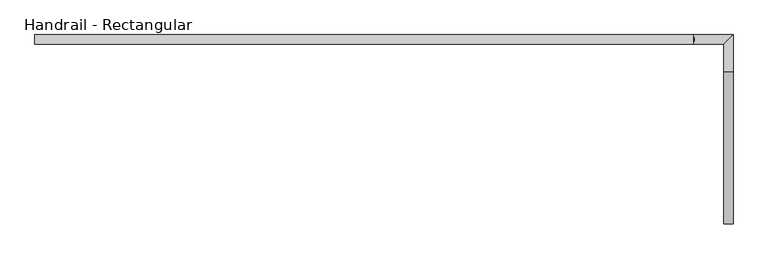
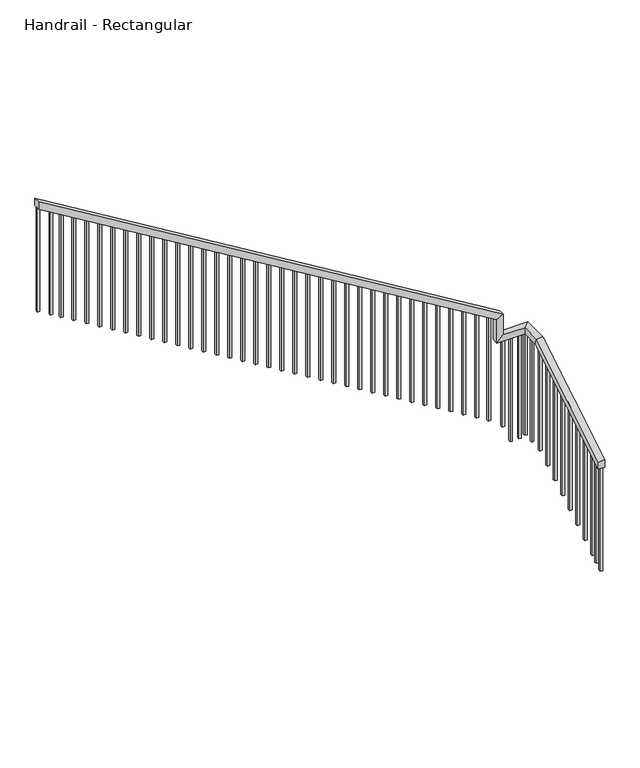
"""IFC4 building model written with IfcOpenShell, lengths in millimetres: railing geometry, Handrail - Rectangular."""

from ifc_helpers import new_model, si_unit, frame, origin, place, context, project, spatial, polyline, outline, extrude, faceted_brep, source, transform, mapped, element, save


def handrail_rectangular_f1ce3a24(model_context):
    return source(origin(), model_context, "Body", "SolidModel", [
        faceted_brep([(-828.7042336, 19516.6480156, 43755.7333333), (-879.5042336, 19516.6480156, 43755.7333333), (-879.5042336, 19516.6480156, 43696.3318731), (-828.7042336, 19516.6480156, 43696.3318731), (-828.7042336, 20354.8480156, 44263.7333333), (-879.5042336, 20354.8480156, 44263.7333333), (-879.5042336, 20369.040425, 44212.9333333), (-828.7042336, 20369.040425, 44212.9333333), (-828.7042336, 20559.6355156, 44263.7333333), (-879.5042336, 20508.8355156, 44263.7333333), (-879.5042336, 20508.8355156, 44212.9333333), (-828.7042336, 20559.6355156, 44212.9333333), (-1047.7792336, 20559.6355156, 44263.7333333), (-1047.7792336, 20508.8355156, 44263.7333333), (-1098.5792336, 20508.8355156, 44212.9333333), (-1098.5792336, 20559.6355156, 44212.9333333), (-1047.7792336, 20559.6355156, 44433.0666667), (-1047.7792336, 20508.8355156, 44433.0666667), (-1098.5792336, 20508.8355156, 44404.4530852), (-1098.5792336, 20559.6355156, 44404.4530852), (-4679.9792336, 20559.6355156, 46634.4), (-4679.9792336, 20559.6355156, 46574.9985397), (-4679.9792336, 20508.8355156, 46574.9985397), (-4679.9792336, 20508.8355156, 46634.4)], [[[0, 1, 2, 3]], [[1, 0, 4, 5]], [[2, 1, 5, 6]], [[3, 2, 6, 7]], [[0, 3, 7, 4]], [[5, 4, 8, 9]], [[6, 5, 9, 10]], [[7, 6, 10, 11]], [[4, 7, 11, 8]], [[9, 8, 12, 13]], [[10, 9, 13, 14]], [[11, 10, 14, 15]], [[8, 11, 15, 12]], [[13, 12, 16, 17]], [[14, 13, 17, 18]], [[15, 14, 18, 19]], [[12, 15, 19, 16]], [[20, 21, 22, 23]], [[17, 16, 20, 23]], [[18, 17, 23, 22]], [[19, 18, 22, 21]], [[16, 19, 21, 20]]]),
        extrude(outline(polyline([(45714.2272727, -4679.9792336), (45714.2272727, -4660.9292336), (46563.4530852, -4660.9292336), (46574.9985397, -4679.9792336), (45714.2272727, -4679.9792336)])), frame((0.0, 20524.7105156, 0.0), z_axis=(0.0, 1.0, 0.0), x_axis=(0.0, 0.0, 1.0)), (0.0, 0.0, 1.0), 19.05),
        extrude(outline(polyline([(45652.6515152, -4578.3792336), (45652.6515152, -4559.3292336), (46501.8773276, -4559.3292336), (46513.4227822, -4578.3792336), (45652.6515152, -4578.3792336)])), frame((0.0, 20524.7105156, 0.0), z_axis=(0.0, 1.0, 0.0), x_axis=(0.0, 0.0, 1.0)), (0.0, 0.0, 1.0), 19.05),
        extrude(outline(polyline([(45604.5454545, -4499.0042336), (45604.5454545, -4479.9542336), (46453.771267, -4479.9542336), (46465.3167216, -4499.0042336), (45604.5454545, -4499.0042336)])), frame((0.0, 20524.7105156, 0.0), z_axis=(0.0, 1.0, 0.0), x_axis=(0.0, 0.0, 1.0)), (0.0, 0.0, 1.0), 19.05),
        extrude(outline(polyline([(45544.8939394, -4400.5792336), (45544.8939394, -4381.5292336), (46394.1197519, -4381.5292336), (46405.6652064, -4400.5792336), (45544.8939394, -4400.5792336)])), frame((0.0, 20524.7105156, 0.0), z_axis=(0.0, 1.0, 0.0), x_axis=(0.0, 0.0, 1.0)), (0.0, 0.0, 1.0), 19.05),
        extrude(outline(polyline([(45483.3181818, -4298.9792336), (45483.3181818, -4279.9292336), (46332.5439943, -4279.9292336), (46344.0894488, -4298.9792336), (45483.3181818, -4298.9792336)])), frame((0.0, 20524.7105156, 0.0), z_axis=(0.0, 1.0, 0.0), x_axis=(0.0, 0.0, 1.0)), (0.0, 0.0, 1.0), 19.05),
        extrude(outline(polyline([(45421.7424242, -4197.3792336), (45421.7424242, -4178.3292336), (46270.9682367, -4178.3292336), (46282.5136913, -4197.3792336), (45421.7424242, -4197.3792336)])), frame((0.0, 20524.7105156, 0.0), z_axis=(0.0, 1.0, 0.0), x_axis=(0.0, 0.0, 1.0)), (0.0, 0.0, 1.0), 19.05),
        extrude(outline(polyline([(45360.1666667, -4095.7792336), (45360.1666667, -4076.7292336), (46209.3924791, -4076.7292336), (46220.9379337, -4095.7792336), (45360.1666667, -4095.7792336)])), frame((0.0, 20524.7105156, 0.0), z_axis=(0.0, 1.0, 0.0), x_axis=(0.0, 0.0, 1.0)), (0.0, 0.0, 1.0), 19.05),
        extrude(outline(polyline([(45298.5909091, -3994.1792336), (45298.5909091, -3975.1292336), (46147.8167216, -3975.1292336), (46159.3621761, -3994.1792336), (45298.5909091, -3994.1792336)])), frame((0.0, 20524.7105156, 0.0), z_axis=(0.0, 1.0, 0.0), x_axis=(0.0, 0.0, 1.0)), (0.0, 0.0, 1.0), 19.05),
        extrude(outline(polyline([(45237.0151515, -3892.5792336), (45237.0151515, -3873.5292336), (46086.240964, -3873.5292336), (46097.7864185, -3892.5792336), (45237.0151515, -3892.5792336)])), frame((0.0, 20524.7105156, 0.0), z_axis=(0.0, 1.0, 0.0), x_axis=(0.0, 0.0, 1.0)), (0.0, 0.0, 1.0), 19.05),
        extrude(outline(polyline([(45175.4393939, -3790.9792336), (45175.4393939, -3771.9292336), (46024.6652064, -3771.9292336), (46036.210661, -3790.9792336), (45175.4393939, -3790.9792336)])), frame((0.0, 20524.7105156, 0.0), z_axis=(0.0, 1.0, 0.0), x_axis=(0.0, 0.0, 1.0)), (0.0, 0.0, 1.0), 19.05),
        extrude(outline(polyline([(45113.8636364, -3689.3792336), (45113.8636364, -3670.3292336), (45963.0894488, -3670.3292336), (45974.6349034, -3689.3792336), (45113.8636364, -3689.3792336)])), frame((0.0, 20524.7105156, 0.0), z_axis=(0.0, 1.0, 0.0), x_axis=(0.0, 0.0, 1.0)), (0.0, 0.0, 1.0), 19.05),
        extrude(outline(polyline([(45052.2878788, -3587.7792336), (45052.2878788, -3568.7292336), (45901.5136913, -3568.7292336), (45913.0591458, -3587.7792336), (45052.2878788, -3587.7792336)])), frame((0.0, 20524.7105156, 0.0), z_axis=(0.0, 1.0, 0.0), x_axis=(0.0, 0.0, 1.0)), (0.0, 0.0, 1.0), 19.05),
        extrude(outline(polyline([(44990.7121212, -3486.1792336), (44990.7121212, -3467.1292336), (45839.9379337, -3467.1292336), (45851.4833882, -3486.1792336), (44990.7121212, -3486.1792336)])), frame((0.0, 20524.7105156, 0.0), z_axis=(0.0, 1.0, 0.0), x_axis=(0.0, 0.0, 1.0)), (0.0, 0.0, 1.0), 19.05),
        extrude(outline(polyline([(44929.1363636, -3384.5792336), (44929.1363636, -3365.5292336), (45778.3621761, -3365.5292336), (45789.9076307, -3384.5792336), (44929.1363636, -3384.5792336)])), frame((0.0, 20524.7105156, 0.0), z_axis=(0.0, 1.0, 0.0), x_axis=(0.0, 0.0, 1.0)), (0.0, 0.0, 1.0), 19.05),
        extrude(outline(polyline([(44867.5606061, -3282.9792336), (44867.5606061, -3263.9292336), (45716.7864185, -3263.9292336), (45728.3318731, -3282.9792336), (44867.5606061, -3282.9792336)])), frame((0.0, 20524.7105156, 0.0), z_axis=(0.0, 1.0, 0.0), x_axis=(0.0, 0.0, 1.0)), (0.0, 0.0, 1.0), 19.05),
        extrude(outline(polyline([(44805.9848485, -3181.3792336), (44805.9848485, -3162.3292336), (45655.210661, -3162.3292336), (45666.7561155, -3181.3792336), (44805.9848485, -3181.3792336)])), frame((0.0, 20524.7105156, 0.0), z_axis=(0.0, 1.0, 0.0), x_axis=(0.0, 0.0, 1.0)), (0.0, 0.0, 1.0), 19.05),
        extrude(outline(polyline([(44744.4090909, -3079.7792336), (44744.4090909, -3060.7292336), (45593.6349034, -3060.7292336), (45605.1803579, -3079.7792336), (44744.4090909, -3079.7792336)])), frame((0.0, 20524.7105156, 0.0), z_axis=(0.0, 1.0, 0.0), x_axis=(0.0, 0.0, 1.0)), (0.0, 0.0, 1.0), 19.05),
        extrude(outline(polyline([(44682.8333333, -2978.1792336), (44682.8333333, -2959.1292336), (45532.0591458, -2959.1292336), (45543.6046004, -2978.1792336), (44682.8333333, -2978.1792336)])), frame((0.0, 20524.7105156, 0.0), z_axis=(0.0, 1.0, 0.0), x_axis=(0.0, 0.0, 1.0)), (0.0, 0.0, 1.0), 19.05),
        extrude(outline(polyline([(44621.2575758, -2876.5792336), (44621.2575758, -2857.5292336), (45470.4833882, -2857.5292336), (45482.0288428, -2876.5792336), (44621.2575758, -2876.5792336)])), frame((0.0, 20524.7105156, 0.0), z_axis=(0.0, 1.0, 0.0), x_axis=(0.0, 0.0, 1.0)), (0.0, 0.0, 1.0), 19.05),
        extrude(outline(polyline([(44559.6818182, -2774.9792336), (44559.6818182, -2755.9292336), (45408.9076307, -2755.9292336), (45420.4530852, -2774.9792336), (44559.6818182, -2774.9792336)])), frame((0.0, 20524.7105156, 0.0), z_axis=(0.0, 1.0, 0.0), x_axis=(0.0, 0.0, 1.0)), (0.0, 0.0, 1.0), 19.05),
        extrude(outline(polyline([(44498.1060606, -2673.3792336), (44498.1060606, -2654.3292336), (45347.3318731, -2654.3292336), (45358.8773276, -2673.3792336), (44498.1060606, -2673.3792336)])), frame((0.0, 20524.7105156, 0.0), z_axis=(0.0, 1.0, 0.0), x_axis=(0.0, 0.0, 1.0)), (0.0, 0.0, 1.0), 19.05),
        extrude(outline(polyline([(44436.530303, -2571.7792336), (44436.530303, -2552.7292336), (45285.7561155, -2552.7292336), (45297.30157, -2571.7792336), (44436.530303, -2571.7792336)])), frame((0.0, 20524.7105156, 0.0), z_axis=(0.0, 1.0, 0.0), x_axis=(0.0, 0.0, 1.0)), (0.0, 0.0, 1.0), 19.05),
        extrude(outline(polyline([(44374.9545455, -2470.1792336), (44374.9545455, -2451.1292336), (45224.1803579, -2451.1292336), (45235.7258125, -2470.1792336), (44374.9545455, -2470.1792336)])), frame((0.0, 20524.7105156, 0.0), z_axis=(0.0, 1.0, 0.0), x_axis=(0.0, 0.0, 1.0)), (0.0, 0.0, 1.0), 19.05),
        extrude(outline(polyline([(44313.3787879, -2368.5792336), (44313.3787879, -2349.5292336), (45162.6046004, -2349.5292336), (45174.1500549, -2368.5792336), (44313.3787879, -2368.5792336)])), frame((0.0, 20524.7105156, 0.0), z_axis=(0.0, 1.0, 0.0), x_axis=(0.0, 0.0, 1.0)), (0.0, 0.0, 1.0), 19.05),
        extrude(outline(polyline([(44251.8030303, -2266.9792336), (44251.8030303, -2247.9292336), (45101.0288428, -2247.9292336), (45112.5742973, -2266.9792336), (44251.8030303, -2266.9792336)])), frame((0.0, 20524.7105156, 0.0), z_axis=(0.0, 1.0, 0.0), x_axis=(0.0, 0.0, 1.0)), (0.0, 0.0, 1.0), 19.05),
        extrude(outline(polyline([(44190.2272727, -2165.3792336), (44190.2272727, -2146.3292336), (45039.4530852, -2146.3292336), (45050.9985397, -2165.3792336), (44190.2272727, -2165.3792336)])), frame((0.0, 20524.7105156, 0.0), z_axis=(0.0, 1.0, 0.0), x_axis=(0.0, 0.0, 1.0)), (0.0, 0.0, 1.0), 19.05),
        extrude(outline(polyline([(44128.6515152, -2063.7792336), (44128.6515152, -2044.7292336), (44977.8773276, -2044.7292336), (44989.4227822, -2063.7792336), (44128.6515152, -2063.7792336)])), frame((0.0, 20524.7105156, 0.0), z_axis=(0.0, 1.0, 0.0), x_axis=(0.0, 0.0, 1.0)), (0.0, 0.0, 1.0), 19.05),
        extrude(outline(polyline([(44067.0757576, -1962.1792336), (44067.0757576, -1943.1292336), (44916.30157, -1943.1292336), (44927.8470246, -1962.1792336), (44067.0757576, -1962.1792336)])), frame((0.0, 20524.7105156, 0.0), z_axis=(0.0, 1.0, 0.0), x_axis=(0.0, 0.0, 1.0)), (0.0, 0.0, 1.0), 19.05),
        extrude(outline(polyline([(44005.5, -1860.5792336), (44005.5, -1841.5292336), (44854.7258125, -1841.5292336), (44866.271267, -1860.5792336), (44005.5, -1860.5792336)])), frame((0.0, 20524.7105156, 0.0), z_axis=(0.0, 1.0, 0.0), x_axis=(0.0, 0.0, 1.0)), (0.0, 0.0, 1.0), 19.05),
        extrude(outline(polyline([(43943.9242424, -1758.9792336), (43943.9242424, -1739.9292336), (44793.1500549, -1739.9292336), (44804.6955094, -1758.9792336), (43943.9242424, -1758.9792336)])), frame((0.0, 20524.7105156, 0.0), z_axis=(0.0, 1.0, 0.0), x_axis=(0.0, 0.0, 1.0)), (0.0, 0.0, 1.0), 19.05),
        extrude(outline(polyline([(43882.3484848, -1657.3792336), (43882.3484848, -1638.3292336), (44731.5742973, -1638.3292336), (44743.1197519, -1657.3792336), (43882.3484848, -1657.3792336)])), frame((0.0, 20524.7105156, 0.0), z_axis=(0.0, 1.0, 0.0), x_axis=(0.0, 0.0, 1.0)), (0.0, 0.0, 1.0), 19.05),
        extrude(outline(polyline([(43820.7727273, -1555.7792336), (43820.7727273, -1536.7292336), (44669.9985397, -1536.7292336), (44681.5439943, -1555.7792336), (43820.7727273, -1555.7792336)])), frame((0.0, 20524.7105156, 0.0), z_axis=(0.0, 1.0, 0.0), x_axis=(0.0, 0.0, 1.0)), (0.0, 0.0, 1.0), 19.05),
        extrude(outline(polyline([(43759.1969697, -1454.1792336), (43759.1969697, -1435.1292336), (44608.4227822, -1435.1292336), (44619.9682367, -1454.1792336), (43759.1969697, -1454.1792336)])), frame((0.0, 20524.7105156, 0.0), z_axis=(0.0, 1.0, 0.0), x_axis=(0.0, 0.0, 1.0)), (0.0, 0.0, 1.0), 19.05),
        extrude(outline(polyline([(43697.6212121, -1352.5792336), (43697.6212121, -1333.5292336), (44546.8470246, -1333.5292336), (44558.3924791, -1352.5792336), (43697.6212121, -1352.5792336)])), frame((0.0, 20524.7105156, 0.0), z_axis=(0.0, 1.0, 0.0), x_axis=(0.0, 0.0, 1.0)), (0.0, 0.0, 1.0), 19.05),
        extrude(outline(polyline([(43636.0454545, -1250.9792336), (43636.0454545, -1231.9292336), (44485.271267, -1231.9292336), (44496.8167216, -1250.9792336), (43636.0454545, -1250.9792336)])), frame((0.0, 20524.7105156, 0.0), z_axis=(0.0, 1.0, 0.0), x_axis=(0.0, 0.0, 1.0)), (0.0, 0.0, 1.0), 19.05),
        extrude(outline(polyline([(43580.2424242, -1158.9042336), (43580.2424242, -1139.8542336), (44429.4682367, -1139.8542336), (44441.0136913, -1158.9042336), (43580.2424242, -1158.9042336)])), frame((0.0, 20524.7105156, 0.0), z_axis=(0.0, 1.0, 0.0), x_axis=(0.0, 0.0, 1.0)), (0.0, 0.0, 1.0), 19.05),
        extrude(outline(polyline([(43491.9298246, -1047.7792336), (43491.9298246, -1028.7292336), (44228.2179538, -1028.7292336), (44281.691638, -1047.7792336), (43491.9298246, -1047.7792336)])), frame((0.0, 20524.7105156, 0.0), z_axis=(0.0, 1.0, 0.0), x_axis=(0.0, 0.0, 1.0)), (0.0, 0.0, 1.0), 19.05),
        extrude(outline(polyline([(-968.4042336, 20524.7105156), (-987.4542336, 20524.7105156), (-987.4542336, 20543.7605156), (-968.4042336, 20543.7605156), (-968.4042336, 20524.7105156)])), frame((0.0, 0.0, 43349.3333333), z_axis=(0.0, 0.0, 1.0), x_axis=(1.0, 0.0, 0.0)), (0.0, 0.0, 1.0), 863.6),
        extrude(outline(polyline([(-898.5542336, 20524.7105156), (-917.6042336, 20524.7105156), (-917.6042336, 20543.7605156), (-898.5542336, 20543.7605156), (-898.5542336, 20524.7105156)])), frame((0.0, 0.0, 43349.3333333), z_axis=(0.0, 0.0, 1.0), x_axis=(1.0, 0.0, 0.0)), (0.0, 0.0, 1.0), 863.6),
        extrude(outline(polyline([(-863.6292336, 20540.5855156), (-863.6292336, 20559.6355156), (-844.5792336, 20559.6355156), (-844.5792336, 20540.5855156), (-863.6292336, 20540.5855156)])), frame((0.0, 0.0, 43349.3333333), z_axis=(0.0, 0.0, 1.0), x_axis=(1.0, 0.0, 0.0)), (0.0, 0.0, 1.0), 863.6),
        extrude(outline(polyline([(-863.6292336, 20447.7167656), (-863.6292336, 20466.7667656), (-844.5792336, 20466.7667656), (-844.5792336, 20447.7167656), (-863.6292336, 20447.7167656)])), frame((0.0, 0.0, 43349.3333333), z_axis=(0.0, 0.0, 1.0), x_axis=(1.0, 0.0, 0.0)), (0.0, 0.0, 1.0), 863.6),
        extrude(outline(polyline([(20354.8480156, 43343.5606061), (20335.7980156, 43343.5606061), (20335.7980156, 44192.7864185), (20354.8480156, 44204.3318731), (20354.8480156, 43343.5606061)])), frame((-863.6292336, 0.0, 0.0), z_axis=(1.0, 0.0, 0.0), x_axis=(0.0, 1.0, 0.0)), (0.0, 0.0, 1.0), 19.05),
        extrude(outline(polyline([(20253.2480156, 43281.9848485), (20234.1980156, 43281.9848485), (20234.1980156, 44131.210661), (20253.2480156, 44142.7561155), (20253.2480156, 43281.9848485)])), frame((-863.6292336, 0.0, 0.0), z_axis=(1.0, 0.0, 0.0), x_axis=(0.0, 1.0, 0.0)), (0.0, 0.0, 1.0), 19.05),
        extrude(outline(polyline([(20151.6480156, 43220.4090909), (20132.5980156, 43220.4090909), (20132.5980156, 44069.6349034), (20151.6480156, 44081.1803579), (20151.6480156, 43220.4090909)])), frame((-863.6292336, 0.0, 0.0), z_axis=(1.0, 0.0, 0.0), x_axis=(0.0, 1.0, 0.0)), (0.0, 0.0, 1.0), 19.05),
        extrude(outline(polyline([(20050.0480156, 43158.8333333), (20030.9980156, 43158.8333333), (20030.9980156, 44008.0591458), (20050.0480156, 44019.6046004), (20050.0480156, 43158.8333333)])), frame((-863.6292336, 0.0, 0.0), z_axis=(1.0, 0.0, 0.0), x_axis=(0.0, 1.0, 0.0)), (0.0, 0.0, 1.0), 19.05),
        extrude(outline(polyline([(19948.4480156, 43097.2575758), (19929.3980156, 43097.2575758), (19929.3980156, 43946.4833882), (19948.4480156, 43958.0288428), (19948.4480156, 43097.2575758)])), frame((-863.6292336, 0.0, 0.0), z_axis=(1.0, 0.0, 0.0), x_axis=(0.0, 1.0, 0.0)), (0.0, 0.0, 1.0), 19.05),
        extrude(outline(polyline([(19846.8480156, 43035.6818182), (19827.7980156, 43035.6818182), (19827.7980156, 43884.9076307), (19846.8480156, 43896.4530852), (19846.8480156, 43035.6818182)])), frame((-863.6292336, 0.0, 0.0), z_axis=(1.0, 0.0, 0.0), x_axis=(0.0, 1.0, 0.0)), (0.0, 0.0, 1.0), 19.05),
        extrude(outline(polyline([(19745.2480156, 42974.1060606), (19726.1980156, 42974.1060606), (19726.1980156, 43823.3318731), (19745.2480156, 43834.8773276), (19745.2480156, 42974.1060606)])), frame((-863.6292336, 0.0, 0.0), z_axis=(1.0, 0.0, 0.0), x_axis=(0.0, 1.0, 0.0)), (0.0, 0.0, 1.0), 19.05),
        extrude(outline(polyline([(19643.6480156, 42912.530303), (19624.5980156, 42912.530303), (19624.5980156, 43761.7561155), (19643.6480156, 43773.30157), (19643.6480156, 42912.530303)])), frame((-863.6292336, 0.0, 0.0), z_axis=(1.0, 0.0, 0.0), x_axis=(0.0, 1.0, 0.0)), (0.0, 0.0, 1.0), 19.05),
        extrude(outline(polyline([(19589.6730156, 42879.8181818), (19570.6230156, 42879.8181818), (19570.6230156, 43729.0439943), (19589.6730156, 43740.5894488), (19589.6730156, 42879.8181818)])), frame((-863.6292336, 0.0, 0.0), z_axis=(1.0, 0.0, 0.0), x_axis=(0.0, 1.0, 0.0)), (0.0, 0.0, 1.0), 19.05),
        extrude(outline(polyline([(19535.6980156, 42847.1060606), (19516.6480156, 42847.1060606), (19516.6480156, 43696.3318731), (19535.6980156, 43707.8773276), (19535.6980156, 42847.1060606)])), frame((-863.6292336, 0.0, 0.0), z_axis=(1.0, 0.0, 0.0), x_axis=(0.0, 1.0, 0.0)), (0.0, 0.0, 1.0), 19.05),
    ])


if __name__ == "__main__":
    model = new_model("IFC4")
    model_context = context("Model", 3, world=origin())
    ifc_project = project(units=[si_unit("LENGTHUNIT", "METRE", prefix="MILLI")], contexts=[model_context])
    site = spatial("IfcSite", under=ifc_project)
    building = spatial("IfcBuilding", under=site)
    placement = place(None, origin())
    handrail_rectangular_shape = handrail_rectangular_f1ce3a24(model_context)
    element("IfcRailing", 1, ObjectType="Handrail - Rectangular", at=placement, inside=building, context=model_context, shape_type="MappedRepresentation", body=[
        mapped(handrail_rectangular_shape, transform((0.0, 0.0, 0.0), x_axis=(1.0, 0.0, 0.0), y_axis=(0.0, 1.0, 0.0), z_axis=(0.0, 0.0, 1.0))),
    ])
    save(model, "model.ifc")
